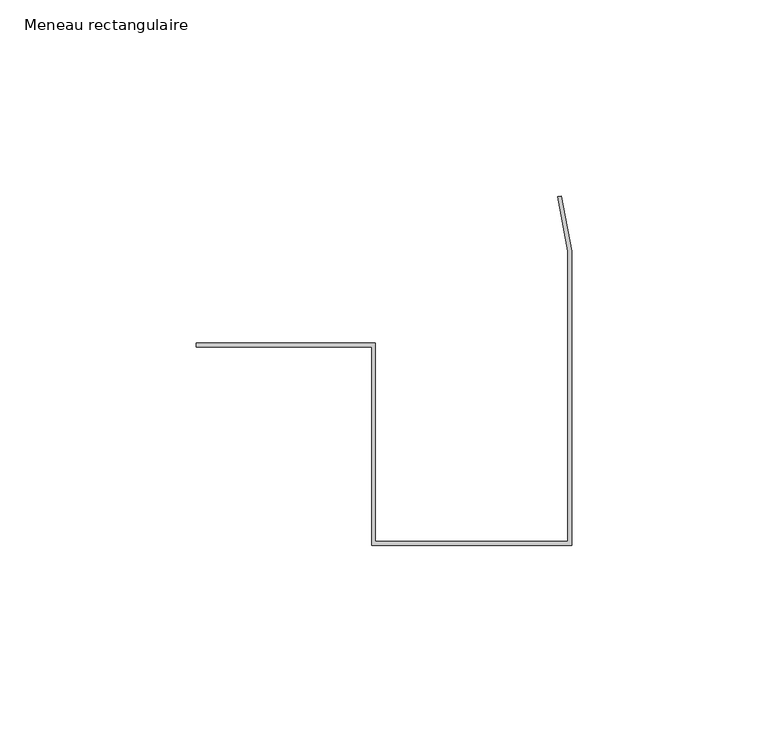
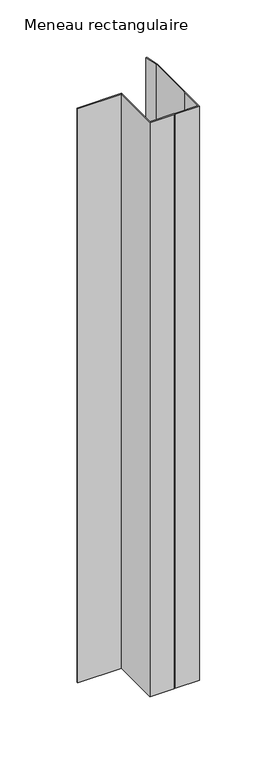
"""IFC4 building model written with IfcOpenShell, lengths in millimetres: member geometry, Meneau rectangulaire : Jonction contre mur Gauche H."""

from ifc_helpers import new_model, si_unit, frame, origin, place, context, project, spatial, polyline, outline, extrude, source, transform, mapped, element, save


def meneau_rectangulaire_74fe4901(model_context):
    return source(origin(), model_context, "Body", "SweptSolid", [
        extrude(outline(polyline([(-1.0, 26.3950161), (-3.6043568, 40.2612876), (-2.6384309, 40.4427073), (0.0, 26.3950161), (0.0, -23.6049839), (0.0, -48.6049839), (-25.0, -48.6049839), (-26.0, -48.6049839), (-51.0, -48.6049839), (-51.0, 2.0), (-95.6686418, 2.0), (-95.6686418, 3.0), (-50.0, 3.0), (-50.0, -47.6049839), (-26.0, -47.6049839), (-25.0, -47.6049839), (-1.0, -47.6049839), (-1.0, -23.6049839), (-1.0, 26.3950161)])), frame((0.0, 0.0, -623.0), z_axis=(0.0, 0.0, 1.0), x_axis=(1.0, 0.0, 0.0)), (0.0, 0.0, 1.0), 623.0),
    ])


if __name__ == "__main__":
    model = new_model("IFC4")
    model_context = context("Model", 3, world=origin())
    ifc_project = project(units=[si_unit("LENGTHUNIT", "METRE", prefix="MILLI")], contexts=[model_context])
    site = spatial("IfcSite", under=ifc_project)
    building = spatial("IfcBuilding", under=site)
    placement = place(None, origin())
    meneau_rectangulaire_shape = meneau_rectangulaire_74fe4901(model_context)
    element("IfcMember", 1, ObjectType="Meneau rectangulaire : Jonction contre mur Gauche H", at=placement, inside=building, context=model_context, shape_type="MappedRepresentation", body=[
        mapped(meneau_rectangulaire_shape, transform((0.0, 0.0, 0.0), x_axis=(1.0, 0.0, 0.0), y_axis=(0.0, 1.0, 0.0), z_axis=(0.0, 0.0, 1.0))),
    ])
    save(model, "model.ifc")
